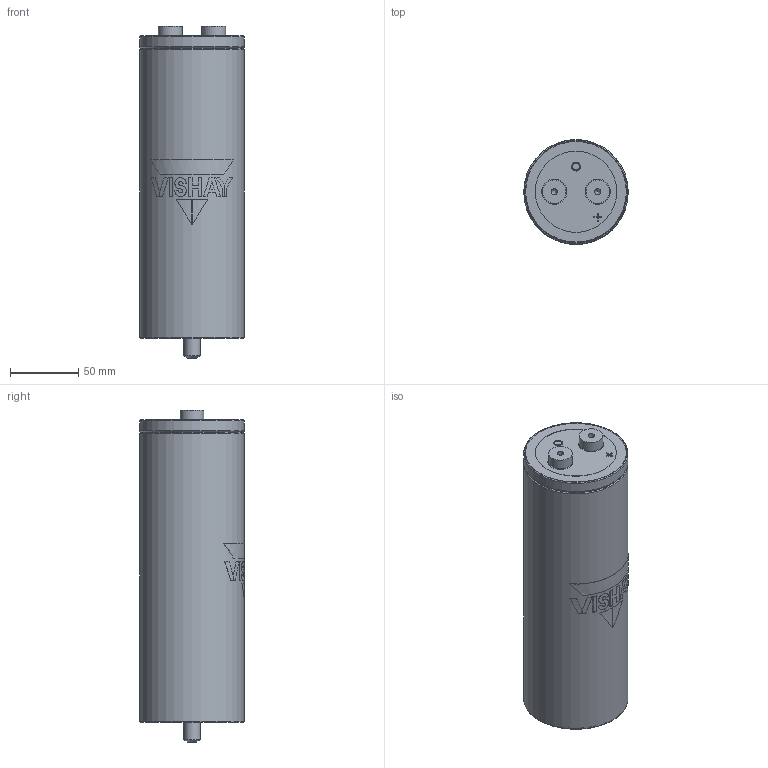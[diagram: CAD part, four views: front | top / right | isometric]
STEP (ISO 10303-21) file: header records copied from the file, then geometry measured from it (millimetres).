
FILE_DESCRIPTION(('FreeCAD Model'),'2;1');
FILE_NAME('C:/Users/tvandesteeg/Documents/Documents/FreeCAD/Stepfiles/ST capacitors/STB_HP_18mm_UNF14-28_76x220.step','2020-12-14T17:25:47',( 'Author'),(''),'Open CASCADE STEP processor 7.3','FreeCAD','Unknown' );
FILE_SCHEMA(('AUTOMOTIVE_DESIGN { 1 0 10303 214 1 1 1 1 }'));
Length unit declared in the file: millimetre
Products named in the file (8): VentBody; TerminalHole; TerminalBody_(Mirror_#2); TerminalBody; STBBottomBody; Disc; LogoPrint; CanBody
Bounding box: 76.4 x 76.5 x 242.8 mm (x, y, z)
Volume: 1012024.4 mm3; surface area: 91111.7 mm2
Topology: 18 solids, 18 shells, 155 faces, 321 edges, 211 vertices
Faces by surface type: plane 96, cylinder 50, torus 5, cone 4
Full cylindrical faces by diameter (mm): 4.579 x2, 5 x2, 11.966 x1, 17.3 x2, 17.8 x7, 18.3 x2, 59.422 x3, 73.6 x2, 75 x1, 76.4 x2
Entity records: 10900 total; most frequent: CARTESIAN_POINT 3392, DIRECTION 1245, ORIENTED_EDGE 638, PCURVE 638, DEFINITIONAL_REPRESENTATION 638, LINE 547, VECTOR 547, EDGE_CURVE 319
